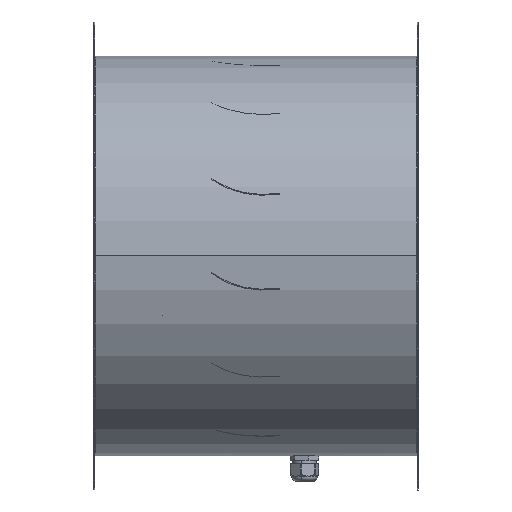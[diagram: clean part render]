
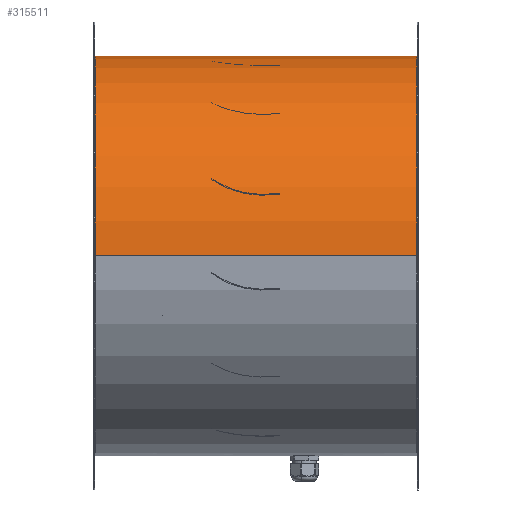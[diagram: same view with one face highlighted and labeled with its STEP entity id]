
A CAD part, top view. The second image highlights one B-rep face of the part: STEP entity #315511.
In plain terms, the highlighted cylindrical face has radius 226.25 mm (diameter 452.5 mm), a partial arc.
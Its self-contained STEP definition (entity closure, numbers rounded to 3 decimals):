
#1641 = CARTESIAN_POINT ( 'NONE',  ( -113.07, 0., 0. ) ) ;
#4388 = CIRCLE ( 'NONE', #8052, 226.25 ) ;
#4491 = DIRECTION ( 'NONE',  ( 1., 0., 0. ) ) ;
#8052 = AXIS2_PLACEMENT_3D ( 'NONE', #218834, #54964, #246349 ) ;
#20921 = CARTESIAN_POINT ( 'NONE',  ( -113.695, 0., -226.25 ) ) ;
#29152 = DIRECTION ( 'NONE',  ( 0., 0., 1. ) ) ;
#29881 = ORIENTED_EDGE ( 'NONE', *, *, #331622, .T. ) ;
#33416 = CARTESIAN_POINT ( 'NONE',  ( 249.93, 3.017, -226.23 ) ) ;
#36262 = CARTESIAN_POINT ( 'NONE',  ( 249.93, 3., -226.23 ) ) ;
#44031 = EDGE_CURVE ( 'NONE', #126654, #294671, #264073, .T. ) ;
#49115 = ORIENTED_EDGE ( 'NONE', *, *, #44031, .T. ) ;
#54964 = DIRECTION ( 'NONE',  ( 1., 0., 0. ) ) ;
#56188 = ORIENTED_EDGE ( 'NONE', *, *, #294776, .F. ) ;
#61393 = CYLINDRICAL_SURFACE ( 'NONE', #85642, 226.25 ) ;
#66168 = DIRECTION ( 'NONE',  ( 1., 0., 0. ) ) ;
#70042 = VECTOR ( 'NONE', #201735, 1000. ) ;
#74772 = LINE ( 'NONE', #94234, #340202 ) ;
#78573 = FACE_OUTER_BOUND ( 'NONE', #119211, .T. ) ;
#80861 = CARTESIAN_POINT ( 'NONE',  ( -113.07, 0., 0. ) ) ;
#85642 = AXIS2_PLACEMENT_3D ( 'NONE', #80861, #190903, #218388 ) ;
#87376 = CARTESIAN_POINT ( 'NONE',  ( 249.93, 0., 0. ) ) ;
#92967 = CIRCLE ( 'NONE', #267051, 226.25 ) ;
#93323 = AXIS2_PLACEMENT_3D ( 'NONE', #87376, #278772, #114876 ) ;
#94234 = CARTESIAN_POINT ( 'NONE',  ( -113.07, 3.017, -226.23 ) ) ;
#95471 = DIRECTION ( 'NONE',  ( 1., 0., 0. ) ) ;
#99974 = CARTESIAN_POINT ( 'NONE',  ( -113.07, 3.017, -226.23 ) ) ;
#111727 = DIRECTION ( 'NONE',  ( 1., 0., 0. ) ) ;
#114081 = CARTESIAN_POINT ( 'NONE',  ( -113.07, 0., -226.25 ) ) ;
#114876 = DIRECTION ( 'NONE',  ( 0., 0., 1. ) ) ;
#119211 = EDGE_LOOP ( 'NONE', ( #56188, #150775, #267792, #354095, #291977, #49115, #29881, #209320, #223269, #345369 ) ) ;
#121199 = VERTEX_POINT ( 'NONE', #261061 ) ;
#122835 = VECTOR ( 'NONE', #141584, 1000. ) ;
#123753 = CARTESIAN_POINT ( 'NONE',  ( 250.555, 0., 226.25 ) ) ;
#126654 = VERTEX_POINT ( 'NONE', #169429 ) ;
#135578 = EDGE_CURVE ( 'NONE', #235760, #319778, #288379, .T. ) ;
#137883 = CARTESIAN_POINT ( 'NONE',  ( -113.07, 3., -226.23 ) ) ;
#141584 = DIRECTION ( 'NONE',  ( 1., 0., 0. ) ) ;
#147619 = AXIS2_PLACEMENT_3D ( 'NONE', #275631, #111727, #303142 ) ;
#150775 = ORIENTED_EDGE ( 'NONE', *, *, #340436, .T. ) ;
#157880 = CIRCLE ( 'NONE', #249249, 226.25 ) ;
#158064 = CARTESIAN_POINT ( 'NONE',  ( -113.695, 0., 226.25 ) ) ;
#168442 = CARTESIAN_POINT ( 'NONE',  ( -113.695, 0., 0. ) ) ;
#169429 = CARTESIAN_POINT ( 'NONE',  ( 249.93, 0., -226.25 ) ) ;
#177006 = VECTOR ( 'NONE', #66168, 1000. ) ;
#179769 = CARTESIAN_POINT ( 'NONE',  ( 250.555, 0., -226.25 ) ) ;
#190903 = DIRECTION ( 'NONE',  ( 1., 0., 0. ) ) ;
#193056 = DIRECTION ( 'NONE',  ( 1., 0., 0. ) ) ;
#195912 = DIRECTION ( 'NONE',  ( 0., 0., 1. ) ) ;
#201735 = DIRECTION ( 'NONE',  ( 1., 0., 0. ) ) ;
#205194 = VERTEX_POINT ( 'NONE', #99974 ) ;
#207720 = EDGE_CURVE ( 'NONE', #346346, #205194, #346936, .T. ) ;
#209320 = ORIENTED_EDGE ( 'NONE', *, *, #247458, .F. ) ;
#212982 = CIRCLE ( 'NONE', #147619, 226.25 ) ;
#218388 = DIRECTION ( 'NONE',  ( 0., 0., 1. ) ) ;
#218834 = CARTESIAN_POINT ( 'NONE',  ( 249.93, 0., 0. ) ) ;
#223269 = ORIENTED_EDGE ( 'NONE', *, *, #207720, .F. ) ;
#223901 = EDGE_CURVE ( 'NONE', #295628, #319778, #212982, .T. ) ;
#233454 = VERTEX_POINT ( 'NONE', #20921 ) ;
#234704 = EDGE_CURVE ( 'NONE', #121199, #346346, #92967, .T. ) ;
#235295 = EDGE_CURVE ( 'NONE', #126654, #295628, #341202, .T. ) ;
#235760 = VERTEX_POINT ( 'NONE', #158064 ) ;
#246349 = DIRECTION ( 'NONE',  ( 0., 0., 1. ) ) ;
#247458 = EDGE_CURVE ( 'NONE', #205194, #330078, #74772, .T. ) ;
#249249 = AXIS2_PLACEMENT_3D ( 'NONE', #168442, #4491, #195912 ) ;
#249706 = LINE ( 'NONE', #257561, #177006 ) ;
#257561 = CARTESIAN_POINT ( 'NONE',  ( -113.07, 0., -226.25 ) ) ;
#259334 = CARTESIAN_POINT ( 'NONE',  ( -113.07, 0., 0. ) ) ;
#261061 = CARTESIAN_POINT ( 'NONE',  ( -113.07, 0., -226.25 ) ) ;
#264073 = CIRCLE ( 'NONE', #93323, 226.25 ) ;
#267051 = AXIS2_PLACEMENT_3D ( 'NONE', #1641, #193056, #29152 ) ;
#267792 = ORIENTED_EDGE ( 'NONE', *, *, #135578, .T. ) ;
#275631 = CARTESIAN_POINT ( 'NONE',  ( 250.555, 0., 0. ) ) ;
#278772 = DIRECTION ( 'NONE',  ( 1., 0., 0. ) ) ;
#286867 = DIRECTION ( 'NONE',  ( 0., 0., 1. ) ) ;
#288379 = LINE ( 'NONE', #338160, #70042 ) ;
#291977 = ORIENTED_EDGE ( 'NONE', *, *, #235295, .F. ) ;
#294671 = VERTEX_POINT ( 'NONE', #36262 ) ;
#294776 = EDGE_CURVE ( 'NONE', #233454, #121199, #249706, .T. ) ;
#295628 = VERTEX_POINT ( 'NONE', #179769 ) ;
#303142 = DIRECTION ( 'NONE',  ( 0., 0., 1. ) ) ;
#305336 = AXIS2_PLACEMENT_3D ( 'NONE', #259334, #95471, #286867 ) ;
#313169 = DIRECTION ( 'NONE',  ( 1., 0., 0. ) ) ;
#315511 = ADVANCED_FACE ( 'NONE', ( #78573 ), #61393, .T. ) ;
#319778 = VERTEX_POINT ( 'NONE', #123753 ) ;
#330078 = VERTEX_POINT ( 'NONE', #33416 ) ;
#331622 = EDGE_CURVE ( 'NONE', #294671, #330078, #4388, .T. ) ;
#338160 = CARTESIAN_POINT ( 'NONE',  ( -113.07, 0., 226.25 ) ) ;
#340202 = VECTOR ( 'NONE', #313169, 1000. ) ;
#340436 = EDGE_CURVE ( 'NONE', #233454, #235760, #157880, .T. ) ;
#341202 = LINE ( 'NONE', #114081, #122835 ) ;
#345369 = ORIENTED_EDGE ( 'NONE', *, *, #234704, .F. ) ;
#346346 = VERTEX_POINT ( 'NONE', #137883 ) ;
#346936 = CIRCLE ( 'NONE', #305336, 226.25 ) ;
#354095 = ORIENTED_EDGE ( 'NONE', *, *, #223901, .F. ) ;
